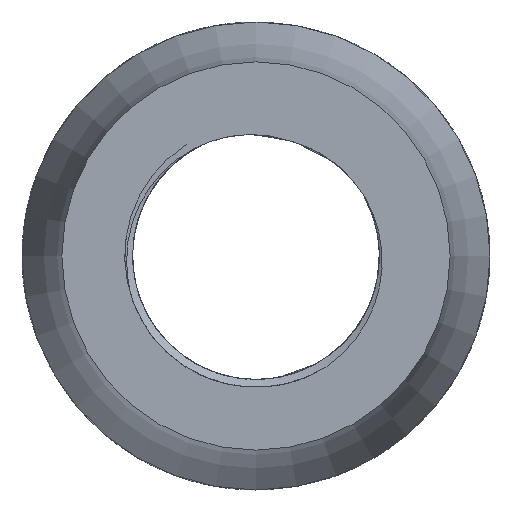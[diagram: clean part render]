
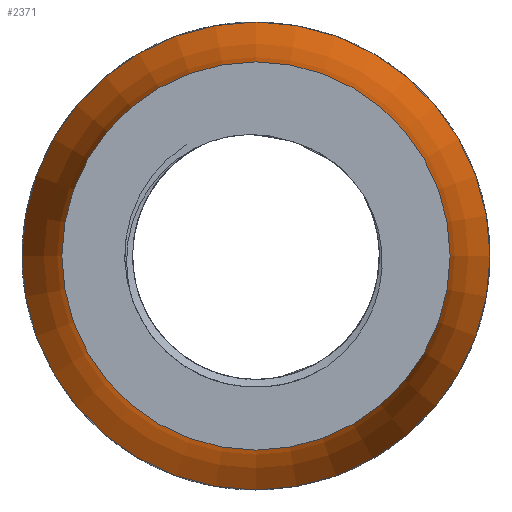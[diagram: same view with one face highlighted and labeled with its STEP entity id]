
A CAD part, left-side view. The second image highlights one B-rep face of the part: STEP entity #2371.
In plain terms, the highlighted toroidal (fillet/blend) face has major radius 36.539 mm and minor radius 27 mm.
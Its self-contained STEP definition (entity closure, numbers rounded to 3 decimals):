
#51=TOROIDAL_SURFACE('',#2526,36.539,27.);
#189=FACE_OUTER_BOUND('',#310,.T.);
#310=EDGE_LOOP('',(#2121,#2122,#2123,#2124,#2125));
#329=CIRCLE('',#2426,11.5);
#330=CIRCLE('',#2427,11.5);
#363=CIRCLE('',#2527,9.54);
#364=CIRCLE('',#2528,27.);
#887=VERTEX_POINT('',#4098);
#888=VERTEX_POINT('',#4100);
#1064=VERTEX_POINT('',#7929);
#1158=EDGE_CURVE('',#887,#888,#329,.T.);
#1159=EDGE_CURVE('',#888,#887,#330,.T.);
#1437=EDGE_CURVE('',#1064,#1064,#363,.T.);
#1438=EDGE_CURVE('',#1064,#888,#364,.T.);
#2121=ORIENTED_EDGE('',*,*,#1437,.F.);
#2122=ORIENTED_EDGE('',*,*,#1438,.T.);
#2123=ORIENTED_EDGE('',*,*,#1158,.F.);
#2124=ORIENTED_EDGE('',*,*,#1159,.F.);
#2125=ORIENTED_EDGE('',*,*,#1438,.F.);
#2371=ADVANCED_FACE('',(#189),#51,.F.);
#2426=AXIS2_PLACEMENT_3D('',#4101,#2641,#2642);
#2427=AXIS2_PLACEMENT_3D('',#4102,#2643,#2644);
#2526=AXIS2_PLACEMENT_3D('',#7928,#2931,#2932);
#2527=AXIS2_PLACEMENT_3D('',#7930,#2933,#2934);
#2528=AXIS2_PLACEMENT_3D('',#7931,#2935,#2936);
#2641=DIRECTION('center_axis',(1.,0.,0.));
#2642=DIRECTION('ref_axis',(0.,1.,0.));
#2643=DIRECTION('center_axis',(1.,0.,0.));
#2644=DIRECTION('ref_axis',(0.,1.,0.));
#2931=DIRECTION('center_axis',(1.,0.,0.));
#2932=DIRECTION('ref_axis',(0.,-1.,0.));
#2933=DIRECTION('center_axis',(-1.,0.,0.));
#2934=DIRECTION('ref_axis',(0.,1.,0.));
#2935=DIRECTION('center_axis',(0.,0.,1.));
#2936=DIRECTION('ref_axis',(0.,1.,0.));
#4098=CARTESIAN_POINT('',(542.376,120.136,165.02));
#4100=CARTESIAN_POINT('',(542.376,143.136,165.02));
#4101=CARTESIAN_POINT('Origin',(542.376,131.636,165.02));
#4102=CARTESIAN_POINT('Origin',(542.376,131.636,165.02));
#7928=CARTESIAN_POINT('Origin',(532.275,131.636,165.02));
#7929=CARTESIAN_POINT('',(532.376,141.175,165.02));
#7930=CARTESIAN_POINT('Origin',(532.376,131.636,165.02));
#7931=CARTESIAN_POINT('Origin',(532.275,168.175,165.02));
